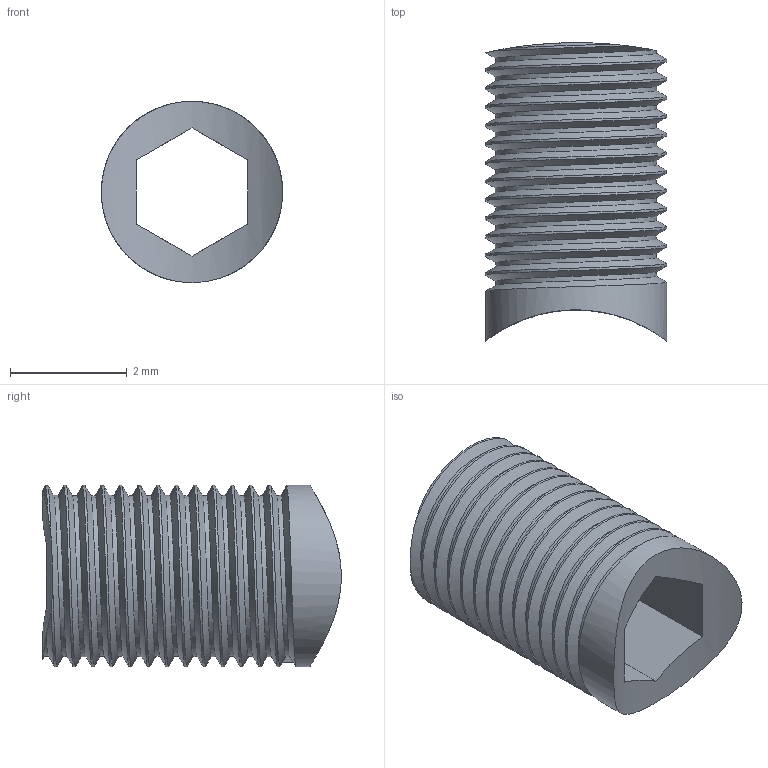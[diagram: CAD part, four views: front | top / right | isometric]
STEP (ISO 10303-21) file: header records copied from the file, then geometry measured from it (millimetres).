
FILE_DESCRIPTION(/* description */ ('STEP AP242 Edition 2','CAx-IF Rec.Pracs.---Representation and Presentation of Product Manufacturing Information (PMI)---4.0---2014-10-13','CAx-IF Rec.Pracs.---3D Tessellated Geometry---0.4---2014-09-14','2;1','CAx-IF Rec.Pracs.---User Defined Attributes---1.5---2016-08-15'),/* implementation_level */ '2;1');
FILE_NAME(/* name */ 'Final Build - Timing Pulley screw',/* time_stamp */ '2026-08-31T23:26:29Z',/* author */ (''),/* organization */ (''),/* preprocessor_version */ 'ST-DEVELOPER v20',/* originating_system */ 'ONSHAPE BY PTC INC, 1.220',/* authorisation */ ' ');
FILE_SCHEMA (('AP242_MANAGED_MODEL_BASED_3D_ENGINEERING_MIM_LF { 1 0 10303 442 3 1 4 }'));
Length unit declared in the file: metre
Products named in the file (1): Timing Pulley screw
Bounding box: 3.1 x 5.11 x 3.1 mm (x, y, z)
Volume: 16.7 mm3; surface area: 108.4 mm2
Topology: 1 solids, 1 shells, 29 faces, 83 edges, 56 vertices
Faces by surface type: cylinder 18, plane 7, bspline 2, cone 2
Full cylindrical faces by diameter (mm): 3.1 x13
Entity records: 2363 total; most frequent: CARTESIAN_POINT 1970, ORIENTED_EDGE 86, DIRECTION 60, EDGE_CURVE 43, VERTEX_POINT 30, AXIS2_PLACEMENT_3D 23, B_SPLINE_CURVE_WITH_KNOTS 21, EDGE_LOOP 19
